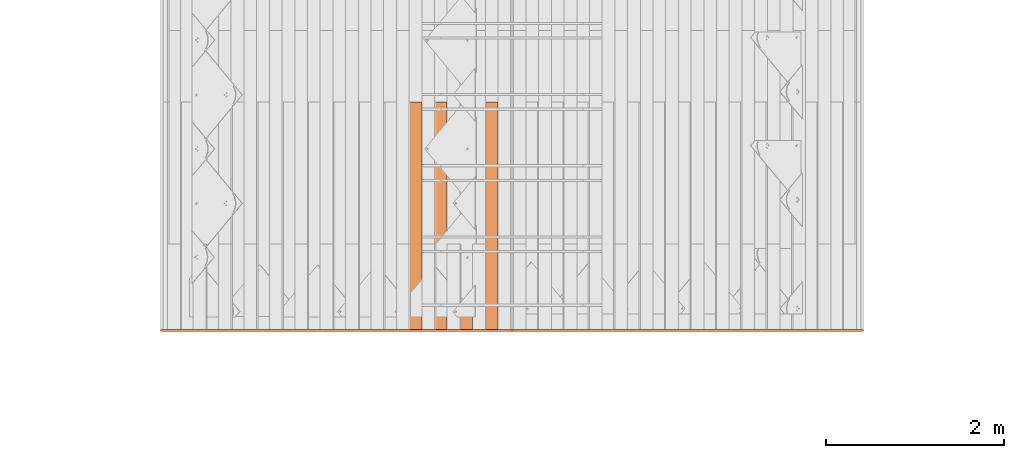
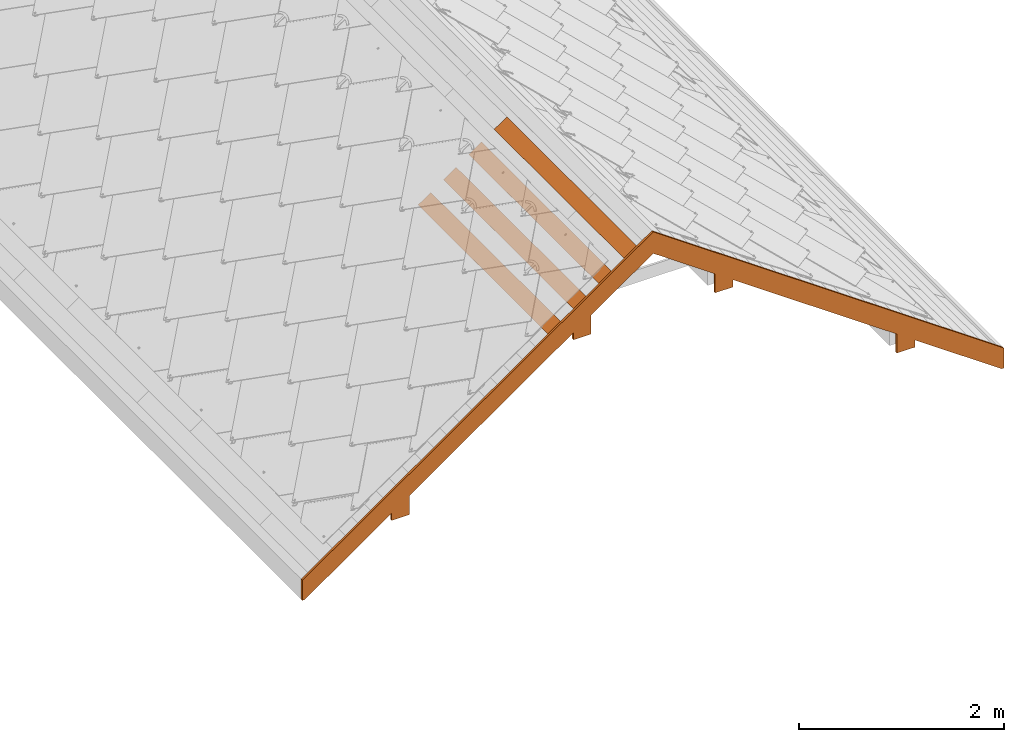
# One storey, part 14 of 133: 5 proxies, 1 element without a shape of its own.
"""IFC2X3 building model written with IfcOpenShell, lengths in millimetres."""

from ifc_helpers import new_model, entity, si_unit, converted_unit, derived_unit, direction, frame, frame_2d, origin, place, context, subcontext, project, spatial, polyline, rectangle, outline, extrude, source, transform, mapped, material, type_object, type_shapes, element, aggregate, save


model = new_model("IFC2X3")

# Units and contexts
model_context = context("Model", 3, precision=0.01, world=origin(), true_north=direction((6.12303176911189e-17, 1.0)))
body_context = subcontext(model_context, "Body", "Model", "MODEL_VIEW")
ifc_project = project(units=[si_unit("LENGTHUNIT", "METRE", prefix="MILLI"), si_unit("AREAUNIT", "SQUARE_METRE"), si_unit("VOLUMEUNIT", "CUBIC_METRE"), converted_unit("PLANEANGLEUNIT", "DEGREE", entity("IfcRatioMeasure", 0.0174532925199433), si_unit("PLANEANGLEUNIT", "RADIAN"), dimensions=[0, 0, 0, 0, 0, 0, 0]), si_unit("MASSUNIT", "GRAM", prefix="KILO"), derived_unit("MASSDENSITYUNIT", [(si_unit("MASSUNIT", "GRAM", prefix="KILO"), 1), (si_unit("LENGTHUNIT", "METRE"), -3)]), si_unit("TIMEUNIT", "SECOND"), si_unit("FREQUENCYUNIT", "HERTZ"), si_unit("THERMODYNAMICTEMPERATUREUNIT", "DEGREE_CELSIUS"), derived_unit("THERMALTRANSMITTANCEUNIT", [(si_unit("MASSUNIT", "GRAM", prefix="KILO"), 1), (si_unit("THERMODYNAMICTEMPERATUREUNIT", "KELVIN"), -1), (si_unit("TIMEUNIT", "SECOND"), -3)]), derived_unit("VOLUMETRICFLOWRATEUNIT", [(si_unit("LENGTHUNIT", "METRE"), 3), (si_unit("TIMEUNIT", "SECOND"), -1)]), si_unit("ELECTRICCURRENTUNIT", "AMPERE"), si_unit("ELECTRICVOLTAGEUNIT", "VOLT"), si_unit("POWERUNIT", "WATT"), si_unit("FORCEUNIT", "NEWTON", prefix="KILO"), si_unit("ILLUMINANCEUNIT", "LUX"), si_unit("LUMINOUSFLUXUNIT", "LUMEN"), si_unit("LUMINOUSINTENSITYUNIT", "CANDELA"), derived_unit("USERDEFINED", [(si_unit("MASSUNIT", "GRAM", prefix="KILO"), -1), (si_unit("LENGTHUNIT", "METRE"), -2), (si_unit("TIMEUNIT", "SECOND"), 3), (si_unit("LUMINOUSFLUXUNIT", "LUMEN"), 1)]), derived_unit("LINEARVELOCITYUNIT", [(si_unit("LENGTHUNIT", "METRE"), 1), (si_unit("TIMEUNIT", "SECOND"), -1)]), si_unit("PRESSUREUNIT", "PASCAL"), derived_unit("USERDEFINED", [(si_unit("LENGTHUNIT", "METRE"), -2), (si_unit("MASSUNIT", "GRAM", prefix="KILO"), 1), (si_unit("TIMEUNIT", "SECOND"), -2)])], contexts=[model_context])

# Site, building, storey
site_placement = place(None, origin())
site = spatial("IfcSite", under=ifc_project, at=site_placement, Name="Default", CompositionType="ELEMENT")
building_placement = place(site_placement, origin())
building = spatial("IfcBuilding", under=site, at=building_placement, CompositionType="ELEMENT")
storey_placement = place(building_placement, origin())
storey = spatial("IfcBuildingStorey", under=building, at=storey_placement, Name="Level 1", CompositionType="ELEMENT", Elevation=0.0)

# Assembly, proxies
assembly_placement = place(storey_placement, origin())
assembly = element("IfcElementAssembly", 1, at=assembly_placement, inside=storey, Name="Structural Framing Assembly:Roof Construction Assembly", ObjectType="Structural Framing Assembly:Roof Construction Assembly", AssemblyPlace="NOTDEFINED", PredefinedType="USERDEFINED")
ifc_material_1 = material(Name="Wood - Generic - Wood For Showcase")
building_element_proxy_type_1 = type_object("IfcBuildingElementProxyType", Name="Structural Framing 15", PredefinedType="NOTDEFINED", material=ifc_material_1)
shared_shape_1 = source(origin(), body_context, "Body", "SweptSolid", [
    extrude(rectangle(XDim=24.9999999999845, YDim=174.344679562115, at=frame_2d((-1.77635683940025e-13, -4.54747350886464e-13), x_axis=(0.0, 1.0))), frame((1128.20180147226, 1437.09519417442, 2760.23940055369), z_axis=(0.0, 1.0, 0.0), x_axis=(-0.819152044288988, 0.0, -0.573576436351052)), (0.0, 0.0, 1.0), 2558.4556079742),
])
type_shapes(building_element_proxy_type_1, [shared_shape_1])
proxy_1_placement = place(assembly_placement, frame((-142.814800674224, -8140.0, -100.0)))
proxy_1 = element("IfcBuildingElementProxy", 2, at=proxy_1_placement, type_object=building_element_proxy_type_1, material=ifc_material_1, Name="Structural Framing 23:Structural Framing 15", ObjectType="Structural Framing 23:Structural Framing 15", context=body_context, shape_type="MappedRepresentation", body=[
    mapped(shared_shape_1, transform((0.0, 0.0, 0.0), scale=1.0)),
])
building_element_proxy_type_2 = type_object("IfcBuildingElementProxyType", Name="Structural Framing 15", PredefinedType="NOTDEFINED", material=ifc_material_1)
shared_shape_2 = source(origin(), body_context, "Body", "SweptSolid", [
    extrude(rectangle(XDim=24.9999999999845, YDim=174.344679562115, at=frame_2d((-1.77635683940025e-13, -4.54747350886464e-13), x_axis=(0.0, 1.0))), frame((1128.20180147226, 1437.09519417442, 2760.23940055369), z_axis=(0.0, 1.0, 0.0), x_axis=(-0.819152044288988, 0.0, -0.573576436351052)), (0.0, 0.0, 1.0), 2558.4556079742),
])
type_shapes(building_element_proxy_type_2, [shared_shape_2])
proxy_2_placement = place(assembly_placement, frame((-428.444402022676, -8140.0, -300.0)))
proxy_2 = element("IfcBuildingElementProxy", 3, at=proxy_2_placement, type_object=building_element_proxy_type_2, material=ifc_material_1, Name="Structural Framing 33:Structural Framing 15", ObjectType="Structural Framing 33:Structural Framing 15", context=body_context, shape_type="MappedRepresentation", body=[
    mapped(shared_shape_2, transform((0.0, 0.0, 0.0), scale=1.0)),
])
building_element_proxy_type_3 = type_object("IfcBuildingElementProxyType", Name="Structural Framing 15", PredefinedType="NOTDEFINED", material=ifc_material_1)
shared_shape_3 = source(origin(), body_context, "Body", "SweptSolid", [
    extrude(rectangle(XDim=24.9999999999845, YDim=174.344679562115, at=frame_2d((-1.77635683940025e-13, -4.54747350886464e-13), x_axis=(0.0, 1.0))), frame((1128.20180147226, 1437.09519417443, 2760.23940055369), z_axis=(0.0, 1.0, 0.0), x_axis=(-0.819152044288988, 0.0, -0.573576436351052)), (0.0, 0.0, 1.0), 2558.4556079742),
])
type_shapes(building_element_proxy_type_3, [shared_shape_3])
proxy_3_placement = place(assembly_placement, frame((-714.074003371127, -8140.0, -500.0)))
proxy_3 = element("IfcBuildingElementProxy", 4, at=proxy_3_placement, type_object=building_element_proxy_type_3, material=ifc_material_1, Name="Structural Framing 43:Structural Framing 15", ObjectType="Structural Framing 43:Structural Framing 15", context=body_context, shape_type="MappedRepresentation", body=[
    mapped(shared_shape_3, transform((0.0, 0.0, 0.0), scale=1.0)),
])
building_element_proxy_type_4 = type_object("IfcBuildingElementProxyType", Name="Structural Framing 15", PredefinedType="NOTDEFINED", material=ifc_material_1)
shared_shape_4 = source(origin(), body_context, "Body", "SweptSolid", [
    extrude(rectangle(XDim=24.9999999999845, YDim=174.344679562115, at=frame_2d((-1.77635683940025e-13, -4.54747350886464e-13), x_axis=(0.0, 1.0))), frame((1128.20180147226, 1437.09519417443, 2760.23940055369), z_axis=(0.0, 1.0, 0.0), x_axis=(-0.819152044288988, 0.0, -0.573576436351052)), (0.0, 0.0, 1.0), 2558.4556079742),
])
type_shapes(building_element_proxy_type_4, [shared_shape_4])
proxy_4_placement = place(assembly_placement, frame((-999.703604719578, -8140.0, -700.0)))
proxy_4 = element("IfcBuildingElementProxy", 5, at=proxy_4_placement, type_object=building_element_proxy_type_4, material=ifc_material_1, Name="Structural Framing 53:Structural Framing 15", ObjectType="Structural Framing 53:Structural Framing 15", context=body_context, shape_type="MappedRepresentation", body=[
    mapped(shared_shape_4, transform((0.0, 0.0, 0.0), scale=1.0)),
])
ifc_material_2 = material(Name="Steel - Generic - Black Steel")
building_element_proxy_type_5 = type_object("IfcBuildingElementProxyType", Name="Structural Framing 323", PredefinedType="NOTDEFINED", material=ifc_material_2)
shared_shape_5 = source(origin(), body_context, "Body", "SweptSolid", [
    extrude(outline(polyline([(3925.79042238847, -1189.7826264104), (3950.79042238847, -1189.7826264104), (3950.79042238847, -950.929430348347), (0.0, 1815.44380529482), (-3950.79042238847, -950.92943034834), (-3950.79042238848, -1189.78262641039), (-3925.79042238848, -1189.78262641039), (-2945.79042238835, -503.579238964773), (-2945.79042238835, -589.575088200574), (-2745.79042238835, -589.575088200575), (-2745.79042238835, -363.537731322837), (-897.91031166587, 930.361851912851), (-897.91031166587, 844.366002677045), (-697.910311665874, 844.366002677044), (-697.910311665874, 1070.40335955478), (0.0, 1559.08542077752), (697.910311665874, 1070.40335955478), (697.910311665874, 844.366002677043), (897.910311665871, 844.366002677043), (897.910311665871, 930.361851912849), (2745.79042238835, -363.537731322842), (2745.79042238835, -589.57508820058), (2945.79042238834, -589.57508820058), (2945.79042238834, -503.57923896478), (3925.79042238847, -1189.7826264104)])), frame((1206.77890726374, -6727.90480582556, 1045.59064502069), z_axis=(0.0, 1.0, 0.0), x_axis=(-1.0, 0.0, 0.0)), (0.0, 0.0, 1.0), 24.9999999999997),
])
type_shapes(building_element_proxy_type_5, [shared_shape_5])
proxy_5_placement = place(assembly_placement, origin())
proxy_5 = element("IfcBuildingElementProxy", 6, at=proxy_5_placement, type_object=building_element_proxy_type_5, material=ifc_material_2, Name="Structural Framing 323:Structural Framing 323", ObjectType="Structural Framing 323:Structural Framing 323", context=body_context, shape_type="MappedRepresentation", body=[
    mapped(shared_shape_5, transform((0.0, 0.0, 0.0), scale=1.0)),
])
aggregate(assembly, [proxy_1, proxy_2, proxy_3, proxy_4, proxy_5])

save(model, "model.ifc")
